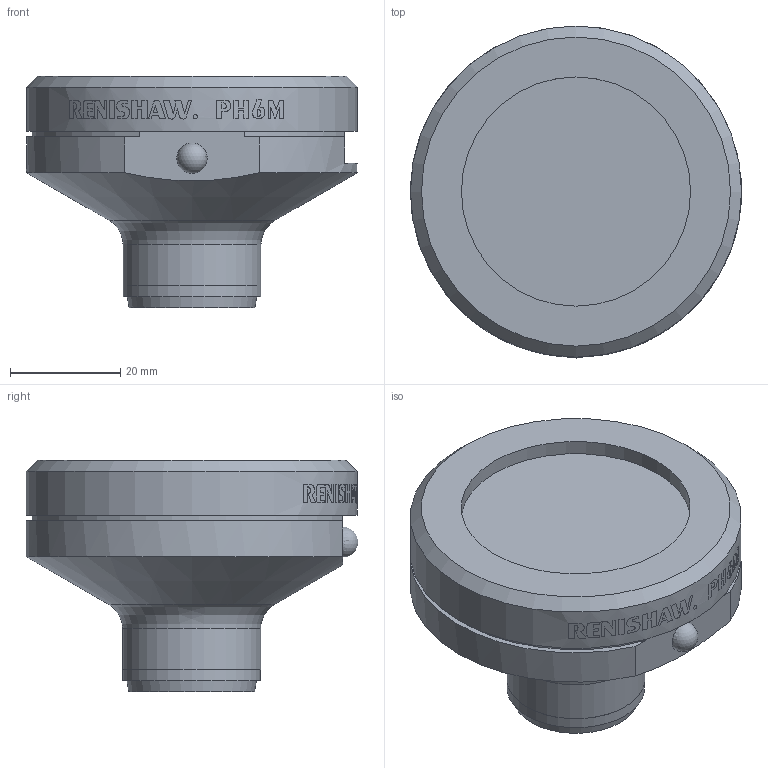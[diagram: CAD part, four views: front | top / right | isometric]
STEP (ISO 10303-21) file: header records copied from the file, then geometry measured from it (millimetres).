
FILE_DESCRIPTION(/* description */ (''),/* implementation_level */ '2;1');
FILE_NAME(/* name */ 'LA-1074-0020#-C.stp',/* time_stamp */ '2012-09-05T07:46:55+01:00',/* author */ (''),/* organization */ (''),/* preprocessor_version */ 'ST-DEVELOPER v11',/* originating_system */ 'SIEMENS PLM Software NX 7.5',/* authorisation */ '');
FILE_SCHEMA (('AUTOMOTIVE_DESIGN { 1 0 10303 214 1 1 1 1 }'));
Length unit declared in the file: millimetre
Products named in the file (1): rt13B55Av56e
Bounding box: 60 x 60.13 x 42 mm (x, y, z)
Volume: 66978.7 mm3; surface area: 10883.7 mm2
Topology: 1 solids, 1 shells, 39 faces, 229 edges, 211 vertices
Faces by surface type: cylinder 23, plane 11, cone 3, torus 1, sphere 1
Full cylindrical faces by diameter (mm): 24.95 x1, 25 x1, 41.525 x1, 60 x1
Entity records: 2820 total; most frequent: CARTESIAN_POINT 1011, ORIENTED_EDGE 434, EDGE_CURVE 217, VERTEX_POINT 209, B_SPLINE_CURVE_WITH_KNOTS 181, DIRECTION 137, EDGE_LOOP 68, AXIS2_PLACEMENT_3D 61
